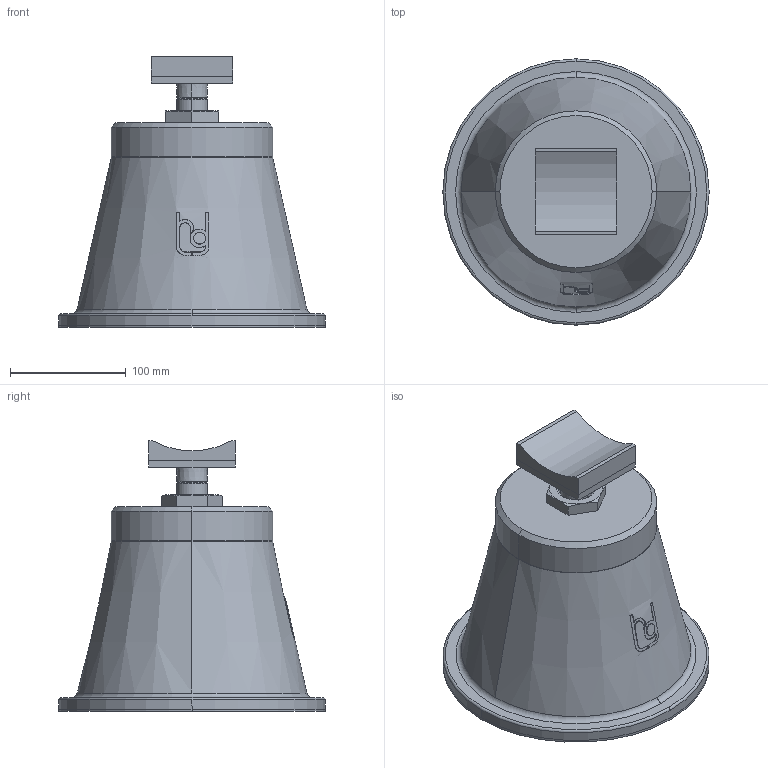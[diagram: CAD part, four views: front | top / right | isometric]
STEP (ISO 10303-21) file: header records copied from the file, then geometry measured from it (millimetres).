
FILE_DESCRIPTION(('STEP AP214'),'1');
FILE_NAME('RSRFN_DN125.stp','2018-06-29T12:42:59',(' '),(' '),'Spatial InterOp 3D',' ',' ');
FILE_SCHEMA(('automotive_design'));
Length unit declared in the file: millimetre
Products named in the file (6): 1; 2; 3; 4; 5; 6
Bounding box: 230 x 230 x 234 mm (x, y, z)
Volume: 4246807.2 mm3; surface area: 321013.7 mm2
Topology: 6 solids, 6 shells, 117 faces, 281 edges, 181 vertices
Faces by surface type: plane 49, cylinder 37, cone 23, torus 8
Entity records: 4840 total; most frequent: CARTESIAN_POINT 1043, DIRECTION 587, ORIENTED_EDGE 562, EDGE_CURVE 281, AXIS2_PLACEMENT_3D 225, VERTEX_POINT 181, LINE 137, VECTOR 137
